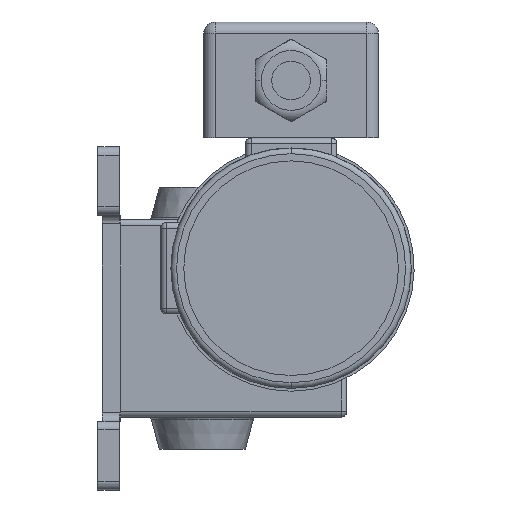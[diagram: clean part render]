
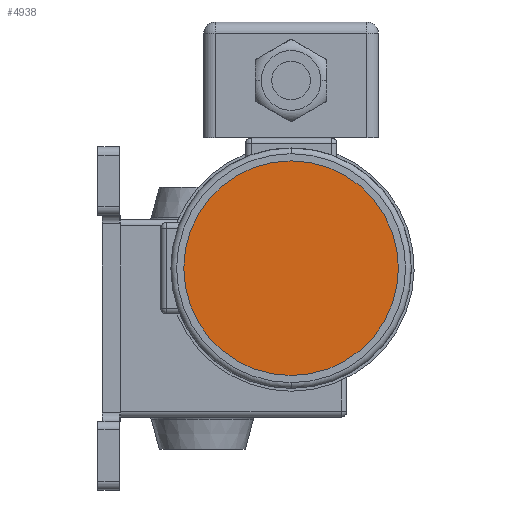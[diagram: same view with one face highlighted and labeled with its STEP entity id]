
A CAD part, left-side view. The second image highlights one B-rep face of the part: STEP entity #4938.
In plain terms, the highlighted planar face has unit normal (-1, 0, 0).
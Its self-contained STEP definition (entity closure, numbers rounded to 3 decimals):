
#1014 = CIRCLE ( 'NONE', #9380, 37.5 ) ;
#1531 = AXIS2_PLACEMENT_3D ( 'NONE', #3065, #7776, #15148 ) ;
#2911 = CIRCLE ( 'NONE', #8588, 37.5 ) ;
#2927 = EDGE_CURVE ( 'NONE', #3524, #3084, #2911, .T. ) ;
#3065 = CARTESIAN_POINT ( 'NONE',  ( 0., 0., 0. ) ) ;
#3084 = VERTEX_POINT ( 'NONE', #14304 ) ;
#3524 = VERTEX_POINT ( 'NONE', #6637 ) ;
#4176 = DIRECTION ( 'NONE',  ( 0., 0., 1. ) ) ;
#4362 = DIRECTION ( 'NONE',  ( -1., 0., 0. ) ) ;
#4736 = ORIENTED_EDGE ( 'NONE', *, *, #2927, .T. ) ;
#4938 = ADVANCED_FACE ( 'NONE', ( #8932 ), #13635, .F. ) ;
#5418 = DIRECTION ( 'NONE',  ( -1., 0., 0. ) ) ;
#6637 = CARTESIAN_POINT ( 'NONE',  ( 0., 0., 37.5 ) ) ;
#6757 = CARTESIAN_POINT ( 'NONE',  ( 0., 0., 0. ) ) ;
#7473 = ORIENTED_EDGE ( 'NONE', *, *, #13694, .T. ) ;
#7776 = DIRECTION ( 'NONE',  ( 1., 0., 0. ) ) ;
#8588 = AXIS2_PLACEMENT_3D ( 'NONE', #6757, #4362, #14898 ) ;
#8932 = FACE_OUTER_BOUND ( 'NONE', #10651, .T. ) ;
#9380 = AXIS2_PLACEMENT_3D ( 'NONE', #11420, #5418, #4176 ) ;
#10651 = EDGE_LOOP ( 'NONE', ( #4736, #7473 ) ) ;
#11420 = CARTESIAN_POINT ( 'NONE',  ( 0., 0., 0. ) ) ;
#13635 = PLANE ( 'NONE',  #1531 ) ;
#13694 = EDGE_CURVE ( 'NONE', #3084, #3524, #1014, .T. ) ;
#14304 = CARTESIAN_POINT ( 'NONE',  ( 0., 0., -37.5 ) ) ;
#14898 = DIRECTION ( 'NONE',  ( 0., 0., 1. ) ) ;
#15148 = DIRECTION ( 'NONE',  ( 0., 0., -1. ) ) ;
